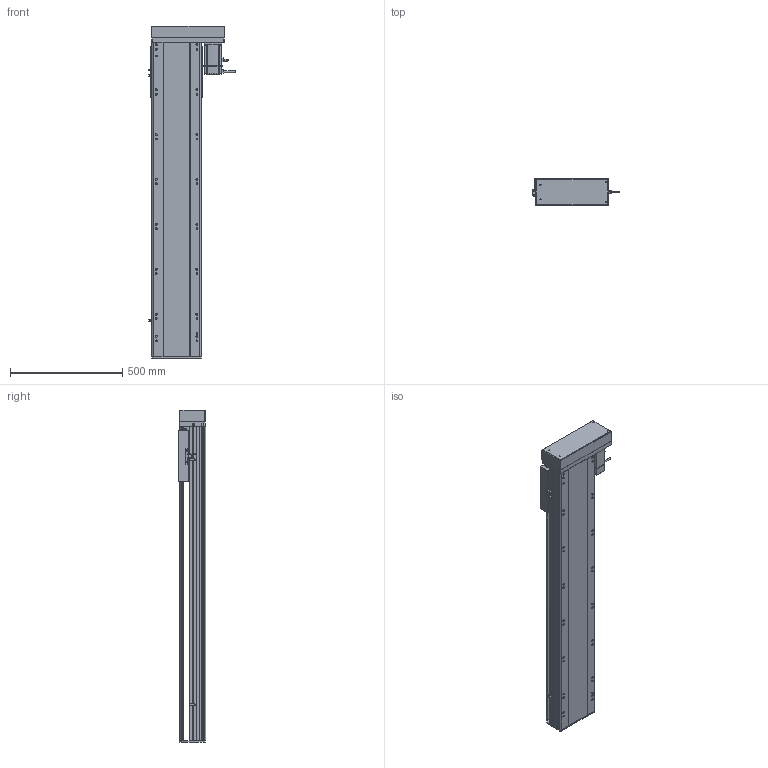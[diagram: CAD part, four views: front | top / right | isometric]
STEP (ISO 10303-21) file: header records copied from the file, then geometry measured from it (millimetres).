
FILE_DESCRIPTION (( 'STEP AP214' ), '1' );
FILE_NAME ('RTH22-XX-1100-L-M75-C4.STEP', '2025-10-24T11:01:10', ( 'Microsoft' ), ( 'Microsoft' ), 'SwSTEP 2.0', 'SolidWorks 2018', '' );
FILE_SCHEMA (( 'AUTOMOTIVE_DESIGN' ));
Length unit declared in the file: millimetre
Products named in the file (10): N_RTH22-GY-013外置感应片^RTH22-XX-XX-L-M75-C4; N_OMRON EE-SX672 传感器^RTH22-XX-XX-L-M75-C4; N_RTH22-L-007奻裔^RTH22-XX-XX-L-M75-C4; N_RTH22-GY-001耜裔^RTH22-XX-XX-L-M75-C4; N_RTH22-L-004-SFS25賑釱^RTH22-XX-XX-L-M75-C4; N_RTH22-L-018裔赽^RTH22-XX-XX-L-M75-C4; N_RTH22-L-008-P75萇儂啣^RTH22-XX-XX-L-M75-C4; RTH22-XX-1100-L-M75-C4; N_750W萇儂^RTH22-XX-XX-L-M75-C4; N_RTH22-L-011菁釱^RTH22-XX-XX-L-M75-C4
Assembly tree (11 placements, depth 2):
  RTH22-XX-1100-L-M75-C4
    N_RTH22-L-011菁釱^RTH22-XX-XX-L-M75-C4
    N_RTH22-GY-001耜裔^RTH22-XX-XX-L-M75-C4
    N_750W萇儂^RTH22-XX-XX-L-M75-C4
    N_RTH22-L-008-P75萇儂啣^RTH22-XX-XX-L-M75-C4
    N_RTH22-L-007奻裔^RTH22-XX-XX-L-M75-C4
    N_RTH22-L-018裔赽^RTH22-XX-XX-L-M75-C4
    N_OMRON EE-SX672 传感器^RTH22-XX-XX-L-M75-C4  x3
    N_RTH22-GY-013外置感应片^RTH22-XX-XX-L-M75-C4
    N_RTH22-L-004-SFS25賑釱^RTH22-XX-XX-L-M75-C4
Bounding box: 384.7 x 122 x 1479.7 mm (x, y, z)
Volume: 20065468.1 mm3; surface area: 2230691.4 mm2
Topology: 11 solids, 11 shells, 1624 faces, 4429 edges, 2851 vertices
Faces by surface type: plane 797, cylinder 482, bspline 279, cone 66
Entity records: 40993 total; most frequent: CARTESIAN_POINT 12410, ORIENTED_EDGE 5818, DIRECTION 5519, EDGE_CURVE 2909, VERTEX_POINT 1887, AXIS2_PLACEMENT_3D 1868, VECTOR 1783, LINE 1783
